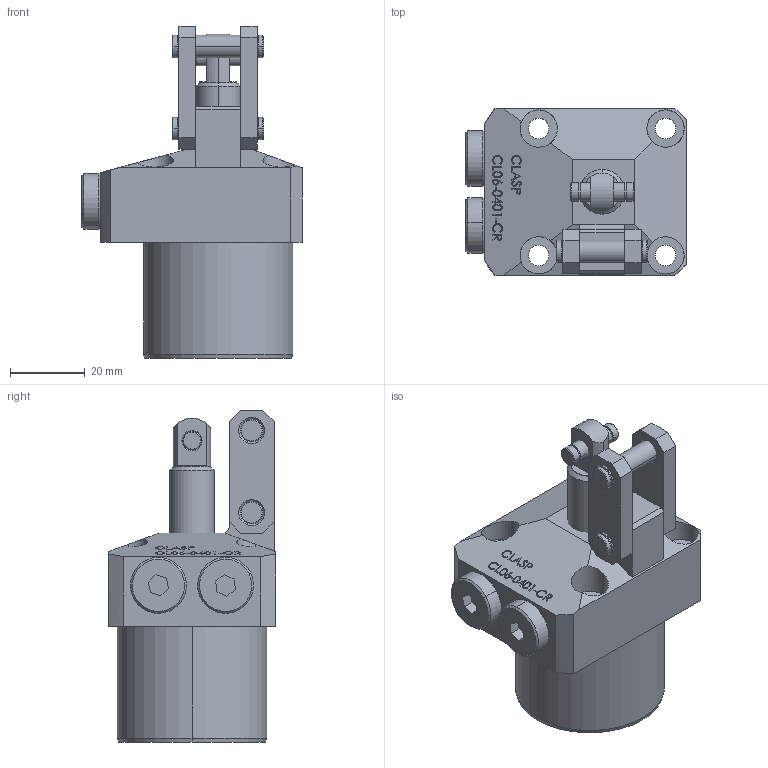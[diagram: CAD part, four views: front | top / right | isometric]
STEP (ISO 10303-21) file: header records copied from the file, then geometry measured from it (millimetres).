
FILE_DESCRIPTION (( 'STEP AP203' ), '1' );
FILE_NAME ('CLO6-0401 cR.STEP', '2022-07-05T17:19:39', ( '' ), ( '' ), 'SwSTEP 2.0', 'SolidWorks 2017', '' );
FILE_SCHEMA (( 'CONFIG_CONTROL_DESIGN' ));
Length unit declared in the file: millimetre
Products named in the file (7): CLO6-0401 Part6 cR; CLO6-0401 Part7 cR; CLO6-0401 cR; CLO6-0401 Part1 cR; CLO6-0401 Part3 cR; CLO6-0401 Part2 cR; CLO6-0401 Part5 cR
Assembly tree (9 placements, depth 2):
  CLO6-0401 cR
    CLO6-0401 Part1 cR
    CLO6-0401 Part3 cR
    CLO6-0401 Part2 cR  x2
    CLO6-0401 Part5 cR  x2
    CLO6-0401 Part6 cR  x2
    CLO6-0401 Part7 cR
Bounding box: 59 x 45 x 89 mm (x, y, z)
Volume: 98489.7 mm3; surface area: 24206.8 mm2
Topology: 9 solids, 9 shells, 418 faces, 1013 edges, 656 vertices
Faces by surface type: plane 195, bspline 89, cylinder 86, cone 48
Entity records: 16990 total; most frequent: CARTESIAN_POINT 8121, ORIENTED_EDGE 1774, DIRECTION 1411, EDGE_CURVE 887, VERTEX_POINT 580, LINE 531, VECTOR 531, AXIS2_PLACEMENT_3D 440
